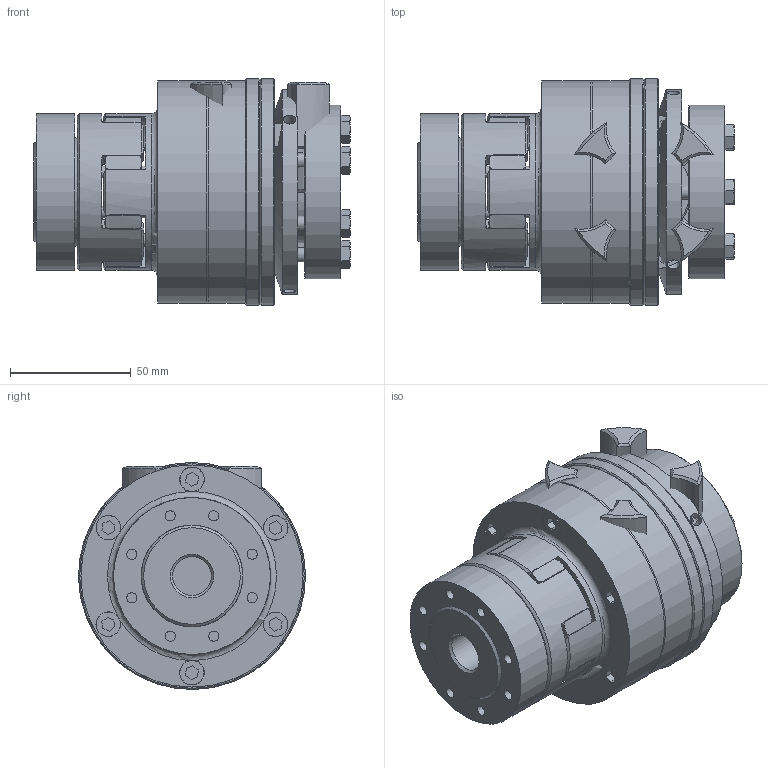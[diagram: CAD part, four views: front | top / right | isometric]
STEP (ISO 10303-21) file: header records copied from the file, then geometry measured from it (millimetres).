
FILE_DESCRIPTION( ( 'Unknown' ), '1' );
FILE_NAME( 'C:/Dokumente und Einstellungen/Sven/Desktop/hp kbk/E-AA/KBK EAA-28-133.stp', 'Unknown', ( 'Unknown' ), ( 'Unknown' ), 'XStep 1.0', 'Unknown', ' ' );
FILE_SCHEMA( ( 'automotive_design' ) );
Length unit declared in the file: millimetre
Products named in the file (19): Assem1; Assem2; Assem3; Assem4; ball_bearing_-_6008_0_01; ball_bearing_-_6008_0_02; ball_bearing_-_6008_0_03; Zylinderschraube DIN 912_2; Stellring 80; Druckring 80; Flansch 80; a_40; Elastomerflansch 28; Zahnkranz EK28_Standard; KBK L-A-80 Grundkörper; Druckring L-A-80; din_en_24017_m6x25; KBE 3 C - 28_Nabe; KBE3-28_Druckring
Bounding box: 131.1 x 94 x 94 mm (x, y, z)
Volume: 1014650.7 mm3; surface area: 353193 mm2
Topology: 44 solids, 44 shells, 1093 faces, 2530 edges, 1642 vertices
Faces by surface type: plane 387, cylinder 378, cone 274, torus 54
Full cylindrical faces by diameter (mm): 2.5 x4, 3.242 x6, 4.2 x24, 4.917 x24, 5 x24, 5.2 x6, 5.5 x16, 6 x15, 6.2 x12, 6.6 x12, 8.8 x7, 9.5 x16, 10 x8, 10.2 x12, 16 x2, 19 x2, 30 x6, 37.5 x2, 39 x2, 40 x7, 42.29 x2, 45 x2, 49.2 x6, 59.1 x6, 61 x2, 62 x4, 65 x6, 68 x7, 70 x2, 72 x2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
Entity records: 12962 total; most frequent: CARTESIAN_POINT 2824, DIRECTION 2174, ORIENTED_EDGE 1628, AXIS2_PLACEMENT_3D 1018, EDGE_CURVE 814, EDGE_LOOP 750, VERTEX_POINT 612, FACE_OUTER_BOUND 570
